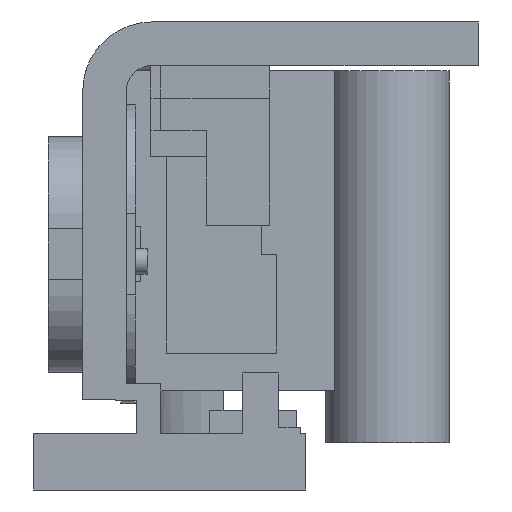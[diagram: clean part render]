
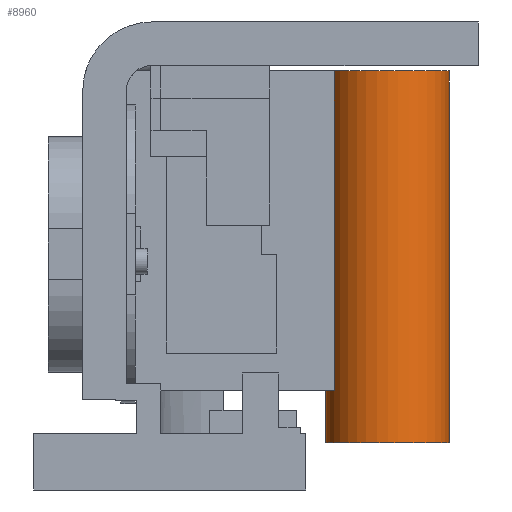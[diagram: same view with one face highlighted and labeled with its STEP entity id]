
A CAD part, front view. The second image highlights one B-rep face of the part: STEP entity #8960.
In plain terms, the highlighted cylindrical face has radius 3.4 mm (diameter 6.8 mm), a full revolution.
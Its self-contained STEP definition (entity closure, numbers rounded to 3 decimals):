
#5800 = PLANE('',#5801);
#5801 = AXIS2_PLACEMENT_3D('',#5802,#5803,#5804);
#5802 = CARTESIAN_POINT('',(-42.6,49.3,-7.5));
#5803 = DIRECTION('',(0.,1.,0.));
#5804 = DIRECTION('',(0.,-0.,1.));
#5930 = PLANE('',#5931);
#5931 = AXIS2_PLACEMENT_3D('',#5932,#5933,#5934);
#5932 = CARTESIAN_POINT('',(-42.6,49.3,-7.5));
#5933 = DIRECTION('',(0.,0.,1.));
#5934 = DIRECTION('',(1.,0.,-0.));
#5955 = PLANE('',#5956);
#5956 = AXIS2_PLACEMENT_3D('',#5957,#5958,#5959);
#5957 = CARTESIAN_POINT('',(-42.6,52.7,-7.5));
#5958 = DIRECTION('',(0.,1.,0.));
#5959 = DIRECTION('',(0.,-0.,1.));
#6980 = PLANE('',#6981);
#6981 = AXIS2_PLACEMENT_3D('',#6982,#6983,#6984);
#6982 = CARTESIAN_POINT('',(-42.6,49.3,10.1));
#6983 = DIRECTION('',(0.,0.,1.));
#6984 = DIRECTION('',(1.,0.,-0.));
#8058 = VERTEX_POINT('',#8059);
#8059 = CARTESIAN_POINT('',(-28.944,49.3,-7.5));
#8104 = VERTEX_POINT('',#8105);
#8105 = CARTESIAN_POINT('',(-28.944,49.3,10.1));
#8126 = EDGE_CURVE('',#8104,#8058,#8127,.T.);
#8127 = SURFACE_CURVE('',#8128,(#8132,#8139),.PCURVE_S1.);
#8128 = LINE('',#8129,#8130);
#8129 = CARTESIAN_POINT('',(-28.944,49.3,-10.4));
#8130 = VECTOR('',#8131,1.);
#8131 = DIRECTION('',(-0.,-0.,-1.));
#8132 = PCURVE('',#5800,#8133);
#8133 = DEFINITIONAL_REPRESENTATION('',(#8134),#8138);
#8134 = LINE('',#8135,#8136);
#8135 = CARTESIAN_POINT('',(-2.9,13.656));
#8136 = VECTOR('',#8137,1.);
#8137 = DIRECTION('',(-1.,0.));
#8138 = ( GEOMETRIC_REPRESENTATION_CONTEXT(2) 
PARAMETRIC_REPRESENTATION_CONTEXT() REPRESENTATION_CONTEXT('2D SPACE',''
  ) );
#8139 = PCURVE('',#8140,#8145);
#8140 = CYLINDRICAL_SURFACE('',#8141,3.4);
#8141 = AXIS2_PLACEMENT_3D('',#8142,#8143,#8144);
#8142 = CARTESIAN_POINT('',(-26.,51.,-10.4));
#8143 = DIRECTION('',(-0.,-0.,-1.));
#8144 = DIRECTION('',(1.,0.,0.));
#8145 = DEFINITIONAL_REPRESENTATION('',(#8146),#8149);
#8146 = B_SPLINE_CURVE_WITH_KNOTS('',1,(#8147,#8148),.UNSPECIFIED.,.F.,
  .F.,(2,2),(-20.5,-1.14),.PIECEWISE_BEZIER_KNOTS.);
#8147 = CARTESIAN_POINT('',(2.618,-20.5));
#8148 = CARTESIAN_POINT('',(2.618,-1.14));
#8149 = ( GEOMETRIC_REPRESENTATION_CONTEXT(2) 
PARAMETRIC_REPRESENTATION_CONTEXT() REPRESENTATION_CONTEXT('2D SPACE',''
  ) );
#8162 = VERTEX_POINT('',#8163);
#8163 = CARTESIAN_POINT('',(-28.944,52.7,-7.5));
#8189 = VERTEX_POINT('',#8190);
#8190 = CARTESIAN_POINT('',(-28.944,52.7,10.1));
#8211 = EDGE_CURVE('',#8189,#8162,#8212,.T.);
#8212 = SURFACE_CURVE('',#8213,(#8217,#8224),.PCURVE_S1.);
#8213 = LINE('',#8214,#8215);
#8214 = CARTESIAN_POINT('',(-28.944,52.7,-10.4));
#8215 = VECTOR('',#8216,1.);
#8216 = DIRECTION('',(-0.,-0.,-1.));
#8217 = PCURVE('',#5955,#8218);
#8218 = DEFINITIONAL_REPRESENTATION('',(#8219),#8223);
#8219 = LINE('',#8220,#8221);
#8220 = CARTESIAN_POINT('',(-2.9,13.656));
#8221 = VECTOR('',#8222,1.);
#8222 = DIRECTION('',(-1.,0.));
#8223 = ( GEOMETRIC_REPRESENTATION_CONTEXT(2) 
PARAMETRIC_REPRESENTATION_CONTEXT() REPRESENTATION_CONTEXT('2D SPACE',''
  ) );
#8224 = PCURVE('',#8140,#8225);
#8225 = DEFINITIONAL_REPRESENTATION('',(#8226),#8229);
#8226 = B_SPLINE_CURVE_WITH_KNOTS('',1,(#8227,#8228),.UNSPECIFIED.,.F.,
  .F.,(2,2),(-20.5,-1.14),.PIECEWISE_BEZIER_KNOTS.);
#8227 = CARTESIAN_POINT('',(3.665,-20.5));
#8228 = CARTESIAN_POINT('',(3.665,-1.14));
#8229 = ( GEOMETRIC_REPRESENTATION_CONTEXT(2) 
PARAMETRIC_REPRESENTATION_CONTEXT() REPRESENTATION_CONTEXT('2D SPACE',''
  ) );
#8236 = EDGE_CURVE('',#8058,#8162,#8237,.T.);
#8237 = SURFACE_CURVE('',#8238,(#8243,#8254),.PCURVE_S1.);
#8238 = CIRCLE('',#8239,3.4);
#8239 = AXIS2_PLACEMENT_3D('',#8240,#8241,#8242);
#8240 = CARTESIAN_POINT('',(-26.,51.,-7.5));
#8241 = DIRECTION('',(0.,0.,-1.));
#8242 = DIRECTION('',(1.,0.,0.));
#8243 = PCURVE('',#5930,#8244);
#8244 = DEFINITIONAL_REPRESENTATION('',(#8245),#8253);
#8245 = ( BOUNDED_CURVE() B_SPLINE_CURVE(2,(#8246,#8247,#8248,#8249,
#8250,#8251,#8252),.UNSPECIFIED.,.T.,.F.) B_SPLINE_CURVE_WITH_KNOTS((1,2
    ,2,2,2,1),(-2.094,0.,2.094,4.189,
6.283,8.378),.UNSPECIFIED.) CURVE() 
GEOMETRIC_REPRESENTATION_ITEM() RATIONAL_B_SPLINE_CURVE((1.,0.5,1.,0.5,
1.,0.5,1.)) REPRESENTATION_ITEM('') );
#8246 = CARTESIAN_POINT('',(20.,1.7));
#8247 = CARTESIAN_POINT('',(20.,-4.189));
#8248 = CARTESIAN_POINT('',(14.9,-1.244));
#8249 = CARTESIAN_POINT('',(9.8,1.7));
#8250 = CARTESIAN_POINT('',(14.9,4.644));
#8251 = CARTESIAN_POINT('',(20.,7.589));
#8252 = CARTESIAN_POINT('',(20.,1.7));
#8253 = ( GEOMETRIC_REPRESENTATION_CONTEXT(2) 
PARAMETRIC_REPRESENTATION_CONTEXT() REPRESENTATION_CONTEXT('2D SPACE',''
  ) );
#8254 = PCURVE('',#8140,#8255);
#8255 = DEFINITIONAL_REPRESENTATION('',(#8256),#8260);
#8256 = LINE('',#8257,#8258);
#8257 = CARTESIAN_POINT('',(0.,-2.9));
#8258 = VECTOR('',#8259,1.);
#8259 = DIRECTION('',(1.,-0.));
#8260 = ( GEOMETRIC_REPRESENTATION_CONTEXT(2) 
PARAMETRIC_REPRESENTATION_CONTEXT() REPRESENTATION_CONTEXT('2D SPACE',''
  ) );
#8868 = EDGE_CURVE('',#8104,#8869,#8871,.T.);
#8869 = VERTEX_POINT('',#8870);
#8870 = CARTESIAN_POINT('',(-22.6,51.,10.1));
#8871 = SURFACE_CURVE('',#8872,(#8877,#8884),.PCURVE_S1.);
#8872 = CIRCLE('',#8873,3.4);
#8873 = AXIS2_PLACEMENT_3D('',#8874,#8875,#8876);
#8874 = CARTESIAN_POINT('',(-26.,51.,10.1));
#8875 = DIRECTION('',(0.,0.,1.));
#8876 = DIRECTION('',(1.,0.,-0.));
#8877 = PCURVE('',#6980,#8878);
#8878 = DEFINITIONAL_REPRESENTATION('',(#8879),#8883);
#8879 = CIRCLE('',#8880,3.4);
#8880 = AXIS2_PLACEMENT_2D('',#8881,#8882);
#8881 = CARTESIAN_POINT('',(16.6,1.7));
#8882 = DIRECTION('',(1.,0.));
#8883 = ( GEOMETRIC_REPRESENTATION_CONTEXT(2) 
PARAMETRIC_REPRESENTATION_CONTEXT() REPRESENTATION_CONTEXT('2D SPACE',''
  ) );
#8884 = PCURVE('',#8140,#8885);
#8885 = DEFINITIONAL_REPRESENTATION('',(#8886),#8890);
#8886 = LINE('',#8887,#8888);
#8887 = CARTESIAN_POINT('',(6.283,-20.5));
#8888 = VECTOR('',#8889,1.);
#8889 = DIRECTION('',(-1.,0.));
#8890 = ( GEOMETRIC_REPRESENTATION_CONTEXT(2) 
PARAMETRIC_REPRESENTATION_CONTEXT() REPRESENTATION_CONTEXT('2D SPACE',''
  ) );
#8892 = EDGE_CURVE('',#8869,#8189,#8893,.T.);
#8893 = SURFACE_CURVE('',#8894,(#8899,#8906),.PCURVE_S1.);
#8894 = CIRCLE('',#8895,3.4);
#8895 = AXIS2_PLACEMENT_3D('',#8896,#8897,#8898);
#8896 = CARTESIAN_POINT('',(-26.,51.,10.1));
#8897 = DIRECTION('',(0.,0.,1.));
#8898 = DIRECTION('',(1.,0.,-0.));
#8899 = PCURVE('',#6980,#8900);
#8900 = DEFINITIONAL_REPRESENTATION('',(#8901),#8905);
#8901 = CIRCLE('',#8902,3.4);
#8902 = AXIS2_PLACEMENT_2D('',#8903,#8904);
#8903 = CARTESIAN_POINT('',(16.6,1.7));
#8904 = DIRECTION('',(1.,0.));
#8905 = ( GEOMETRIC_REPRESENTATION_CONTEXT(2) 
PARAMETRIC_REPRESENTATION_CONTEXT() REPRESENTATION_CONTEXT('2D SPACE',''
  ) );
#8906 = PCURVE('',#8140,#8907);
#8907 = DEFINITIONAL_REPRESENTATION('',(#8908),#8912);
#8908 = LINE('',#8909,#8910);
#8909 = CARTESIAN_POINT('',(6.283,-20.5));
#8910 = VECTOR('',#8911,1.);
#8911 = DIRECTION('',(-1.,0.));
#8912 = ( GEOMETRIC_REPRESENTATION_CONTEXT(2) 
PARAMETRIC_REPRESENTATION_CONTEXT() REPRESENTATION_CONTEXT('2D SPACE',''
  ) );
#8960 = ADVANCED_FACE('',(#8961),#8140,.T.);
#8961 = FACE_BOUND('',#8962,.T.);
#8962 = EDGE_LOOP('',(#8963,#8986,#8987,#8988,#8989,#8990,#8991,#8992));
#8963 = ORIENTED_EDGE('',*,*,#8964,.T.);
#8964 = EDGE_CURVE('',#8965,#8869,#8967,.T.);
#8965 = VERTEX_POINT('',#8966);
#8966 = CARTESIAN_POINT('',(-22.6,51.,-10.4));
#8967 = SEAM_CURVE('',#8968,(#8972,#8979),.PCURVE_S1.);
#8968 = LINE('',#8969,#8970);
#8969 = CARTESIAN_POINT('',(-22.6,51.,-10.4));
#8970 = VECTOR('',#8971,1.);
#8971 = DIRECTION('',(0.,0.,1.));
#8972 = PCURVE('',#8140,#8973);
#8973 = DEFINITIONAL_REPRESENTATION('',(#8974),#8978);
#8974 = LINE('',#8975,#8976);
#8975 = CARTESIAN_POINT('',(0.,0.));
#8976 = VECTOR('',#8977,1.);
#8977 = DIRECTION('',(-0.,-1.));
#8978 = ( GEOMETRIC_REPRESENTATION_CONTEXT(2) 
PARAMETRIC_REPRESENTATION_CONTEXT() REPRESENTATION_CONTEXT('2D SPACE',''
  ) );
#8979 = PCURVE('',#8140,#8980);
#8980 = DEFINITIONAL_REPRESENTATION('',(#8981),#8985);
#8981 = LINE('',#8982,#8983);
#8982 = CARTESIAN_POINT('',(6.283,0.));
#8983 = VECTOR('',#8984,1.);
#8984 = DIRECTION('',(-0.,-1.));
#8985 = ( GEOMETRIC_REPRESENTATION_CONTEXT(2) 
PARAMETRIC_REPRESENTATION_CONTEXT() REPRESENTATION_CONTEXT('2D SPACE',''
  ) );
#8986 = ORIENTED_EDGE('',*,*,#8868,.F.);
#8987 = ORIENTED_EDGE('',*,*,#8126,.T.);
#8988 = ORIENTED_EDGE('',*,*,#8236,.T.);
#8989 = ORIENTED_EDGE('',*,*,#8211,.F.);
#8990 = ORIENTED_EDGE('',*,*,#8892,.F.);
#8991 = ORIENTED_EDGE('',*,*,#8964,.F.);
#8992 = ORIENTED_EDGE('',*,*,#8993,.T.);
#8993 = EDGE_CURVE('',#8965,#8965,#8994,.T.);
#8994 = SURFACE_CURVE('',#8995,(#9000,#9007),.PCURVE_S1.);
#8995 = CIRCLE('',#8996,3.4);
#8996 = AXIS2_PLACEMENT_3D('',#8997,#8998,#8999);
#8997 = CARTESIAN_POINT('',(-26.,51.,-10.4));
#8998 = DIRECTION('',(0.,0.,1.));
#8999 = DIRECTION('',(1.,0.,-0.));
#9000 = PCURVE('',#8140,#9001);
#9001 = DEFINITIONAL_REPRESENTATION('',(#9002),#9006);
#9002 = LINE('',#9003,#9004);
#9003 = CARTESIAN_POINT('',(6.283,0.));
#9004 = VECTOR('',#9005,1.);
#9005 = DIRECTION('',(-1.,0.));
#9006 = ( GEOMETRIC_REPRESENTATION_CONTEXT(2) 
PARAMETRIC_REPRESENTATION_CONTEXT() REPRESENTATION_CONTEXT('2D SPACE',''
  ) );
#9007 = PCURVE('',#9008,#9013);
#9008 = PLANE('',#9009);
#9009 = AXIS2_PLACEMENT_3D('',#9010,#9011,#9012);
#9010 = CARTESIAN_POINT('',(-26.,51.,-10.4));
#9011 = DIRECTION('',(0.,0.,1.));
#9012 = DIRECTION('',(1.,0.,-0.));
#9013 = DEFINITIONAL_REPRESENTATION('',(#9014),#9018);
#9014 = CIRCLE('',#9015,3.4);
#9015 = AXIS2_PLACEMENT_2D('',#9016,#9017);
#9016 = CARTESIAN_POINT('',(0.,0.));
#9017 = DIRECTION('',(1.,0.));
#9018 = ( GEOMETRIC_REPRESENTATION_CONTEXT(2) 
PARAMETRIC_REPRESENTATION_CONTEXT() REPRESENTATION_CONTEXT('2D SPACE',''
  ) );
